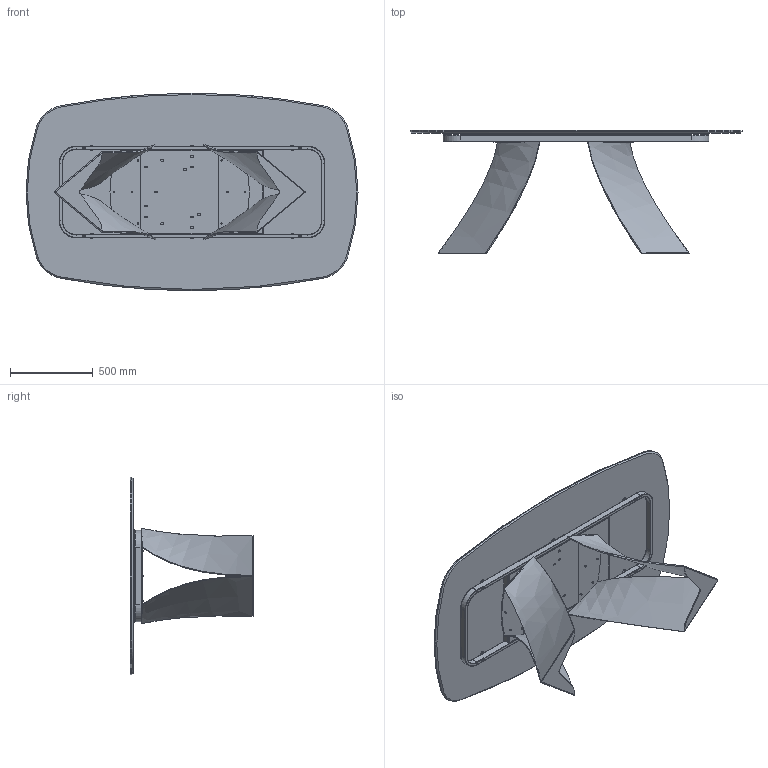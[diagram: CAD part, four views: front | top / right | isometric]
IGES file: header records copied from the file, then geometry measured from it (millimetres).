
Start section: SolidWorks IGES file using analytic representation for surfaces
Global section: file name: Y:\eforma\TECNICO\SOLIDWORKS\E-FORMA\1-TAVOLI\TWIST\02 parts\TW40C.IGS; native system: SolidWorks 2022; preprocessor: SolidWorks 2022; author: eforma.tech; date: 240807.144304; units: millimetre
Bounding box: 2000 x 741.37 x 1190 mm (x, y, z)
Volume: 44630768.9 mm3; surface area: 13073412.8 mm2
Topology: 57 solids, 57 shells, 1129 faces, 2631 edges, 1604 vertices
Faces by surface type: revolution 637, plane 426, bspline 66
